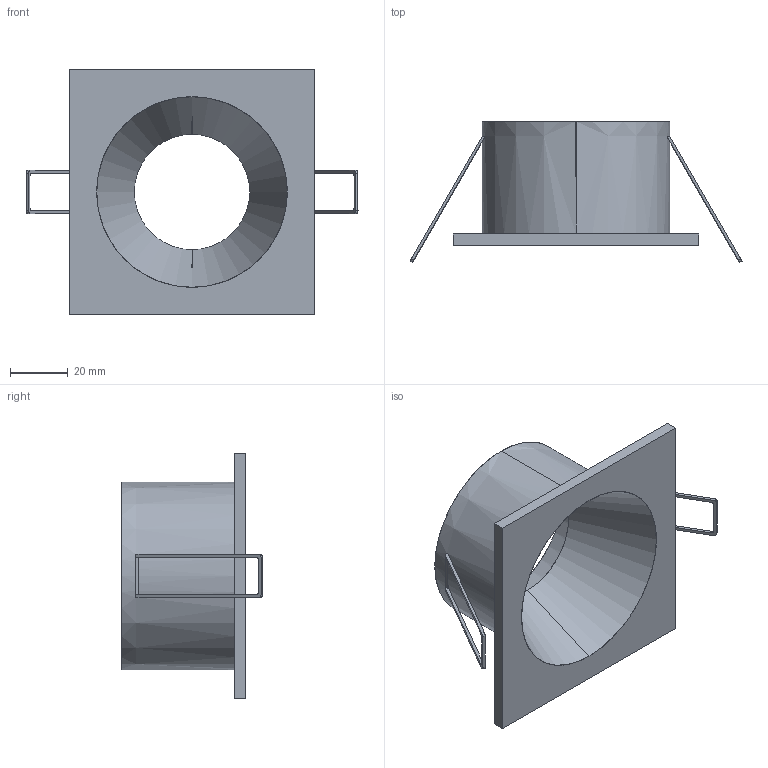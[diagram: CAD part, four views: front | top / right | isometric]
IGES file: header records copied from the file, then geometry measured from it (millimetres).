
Start section: SolidWorks IGES file using analytic representation for surfaces
Global section: file name: C:\Users\danielet\Desktop\3D CARLOS\VELT-P3678-3D\VELT-P3678-3D.IGS; native system: SolidWorks 2018; preprocessor: SolidWorks 2018; author: danielet; date: 220126.092703; units: millimetre
Bounding box: 115 x 48.8 x 85 mm (x, y, z)
Surface area: 34544.6 mm2 (no closed solid volume)
Topology: 0 solids, 0 shells, 50 faces, 764 edges, 764 vertices
Faces by surface type: bspline 36, revolution 14
